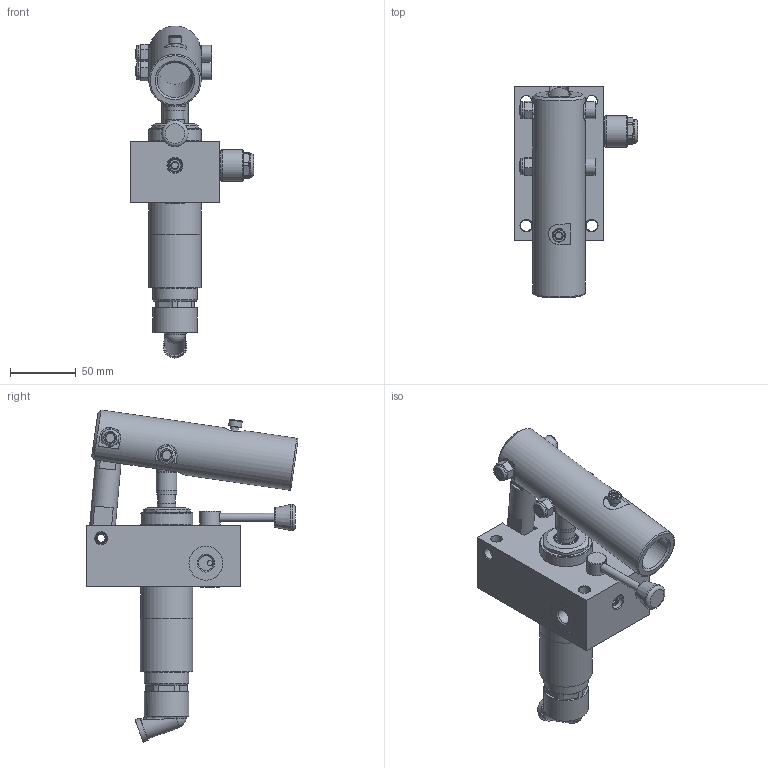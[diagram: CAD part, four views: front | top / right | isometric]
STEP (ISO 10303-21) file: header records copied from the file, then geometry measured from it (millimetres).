
FILE_DESCRIPTION(/* description */ ('Unknown'),/* implementation_level */ '2;1');
FILE_NAME(/* name */ 'AI316HPTD-VOUT',/* time_stamp */ '2024-11-28T14:40:32+01:00',/* author */ ('Unknown'),/* organization */ ('Unknown'),/* preprocessor_version */ 'ST-DEVELOPER v19.4',/* originating_system */ 'Solid Edge',/* authorisation */ 'Unknown');
FILE_SCHEMA (('MODEL_BASED_INTEGRATED_MANUFACTURING_SCHEMA','AUTOMOTIVE_DESIGN {1 0 10303 214 3 1 1}'));
Products named in the file (1): AI316HPTD-VOUT
Bounding box: 93.91 x 161.56 x 253.09 mm (x, y, z)
Volume: 626253.5 mm3; surface area: 126450.8 mm2
Topology: 2 solids, 2 shells, 2140 faces, 5896 edges, 3819 vertices
Faces by surface type: plane 1798, cylinder 206, cone 74, torus 47, bspline 11, sphere 4
Full cylindrical faces by diameter (mm): 3.497 x1, 3.996 x3, 4.912 x1, 4.995 x1, 5.095 x3, 5.994 x2, 6.194 x3, 6.993 x2, 7.992 x12, 8.368 x1, 8.591 x6, 9.99 x3, 10.489 x1, 10.989 x3, 11.434 x4, 12.787 x2, 12.987 x2, 13.486 x1, 13.536 x1, 13.986 x2, 14.935 x2, 15.285 x1, 15.485 x1, 15.584 x1, 15.784 x1, 15.984 x4, 16.483 x1, 16.983 x1, 17.982 x4, 18.382 x1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
Entity records: 82709 total; most frequent: CARTESIAN_POINT 13989, ORIENTED_EDGE 11128, DIRECTION 10399, EDGE_CURVE 5564, LINE 4573, VECTOR 4573, VERTEX_POINT 3699, AXIS2_PLACEMENT_3D 2913
